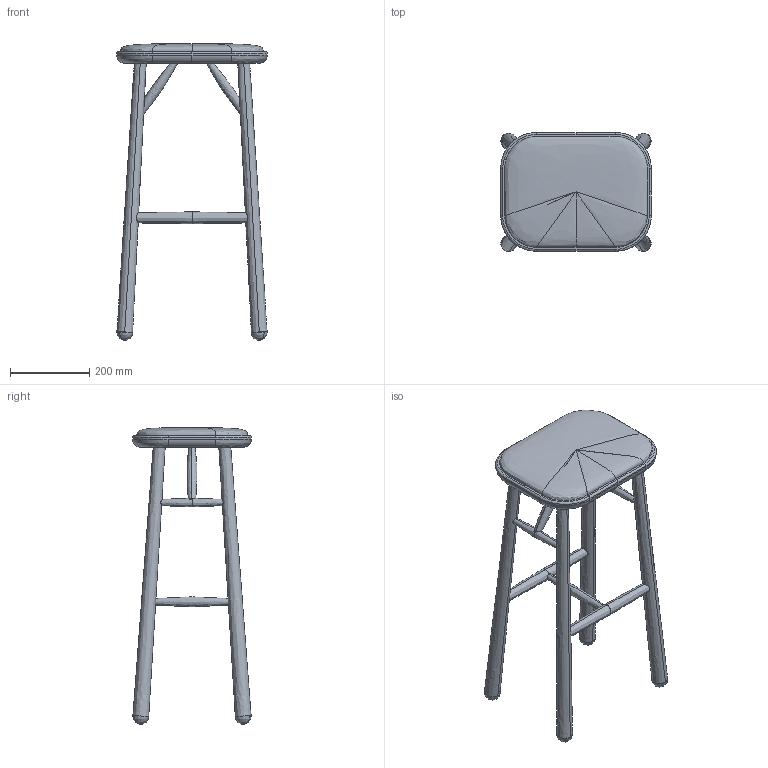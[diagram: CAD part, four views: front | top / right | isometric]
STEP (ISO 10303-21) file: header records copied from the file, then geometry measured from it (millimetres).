
FILE_DESCRIPTION(/* description */ (''),/* implementation_level */ '2;1');
FILE_NAME(/* name */ 'KINOSH~2',/* time_stamp */ '2018-07-10T15:49:45+09:00',/* author */ (''),/* organization */ (''),/* preprocessor_version */ 'ST-DEVELOPER v15',/* originating_system */ '',/* authorisation */ '');
FILE_SCHEMA (('AUTOMOTIVE_DESIGN'));
Length unit declared in the file: millimetre
Products named in the file (1): Document
Bounding box: 380 x 300 x 749.55 mm (x, y, z)
Volume: 6322351.2 mm3; surface area: 763165.5 mm2
Topology: 10 solids, 14 shells, 112 faces, 254 edges, 152 vertices
Faces by surface type: bspline 97, plane 15
Entity records: 7699 total; most frequent: CARTESIAN_POINT 6278, ORIENTED_EDGE 462, EDGE_CURVE 241, VERTEX_POINT 148, B_SPLINE_CURVE_WITH_KNOTS 116, ADVANCED_FACE 112, FACE_OUTER_BOUND 112, EDGE_LOOP 112
